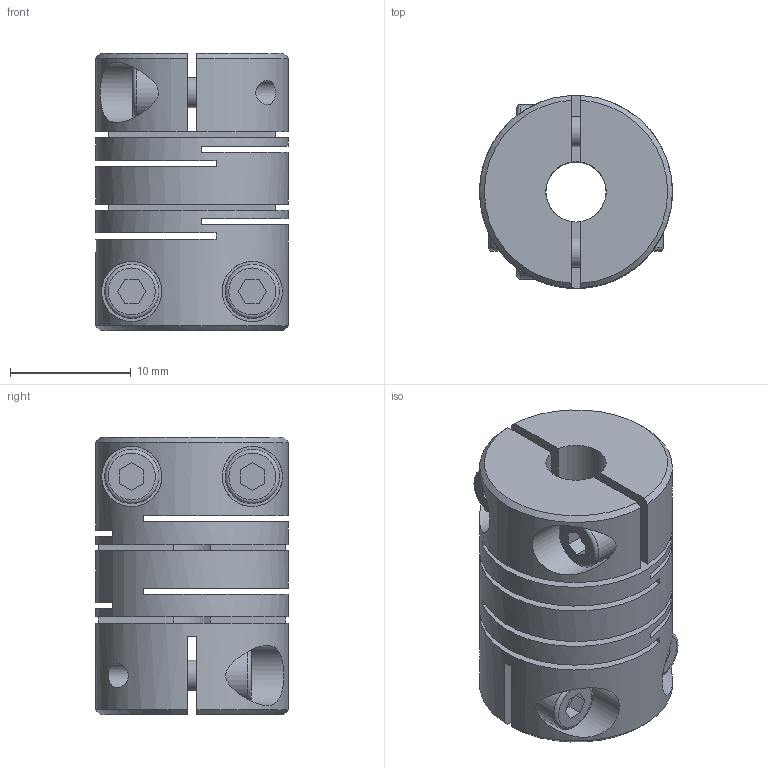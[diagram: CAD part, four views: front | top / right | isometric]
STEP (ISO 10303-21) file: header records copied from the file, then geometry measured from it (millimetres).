
FILE_DESCRIPTION (( 'STEP AP214' ), '1' );
FILE_NAME ('2246-16-B5-5-NI.step', '2022-05-27T09:30:47', ( '' ), ( '' ), 'SwSTEP 2.0', 'SolidWorks 2019', '' );
FILE_SCHEMA (( 'AUTOMOTIVE_DESIGN' ));
Length unit declared in the file: millimetre
Products named in the file (1): 2246-16-B5-5-NI
Bounding box: 16 x 15.99 x 23 mm (x, y, z)
Volume: 3513.2 mm3; surface area: 4002.5 mm2
Topology: 1 solids, 1 shells, 119 faces, 312 edges, 209 vertices
Faces by surface type: plane 82, cylinder 25, cone 8, torus 4
Full cylindrical faces by diameter (mm): 2.01 x4, 2.5 x4, 2.7 x4, 4.5 x4, 5 x6, 16 x1
Entity records: 4290 total; most frequent: CARTESIAN_POINT 944, DIRECTION 554, ORIENTED_EDGE 494, EDGE_CURVE 247, AXIS2_PLACEMENT_3D 203, EDGE_LOOP 190, VERTEX_POINT 181, LINE 148
